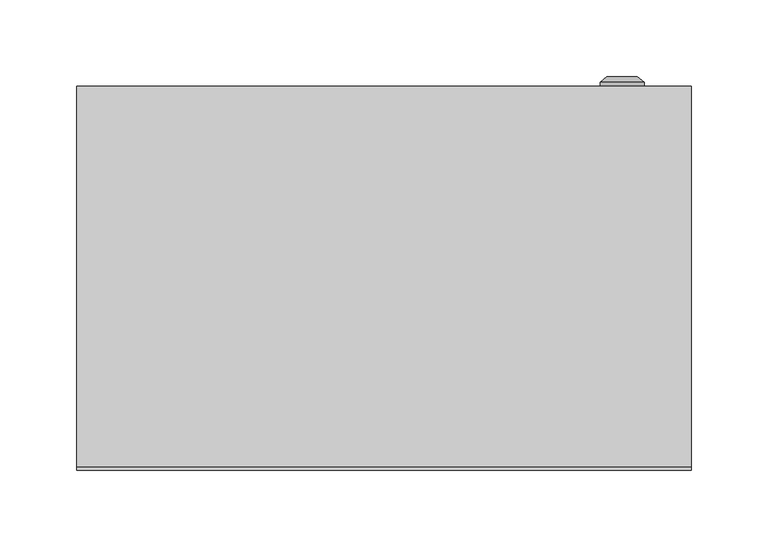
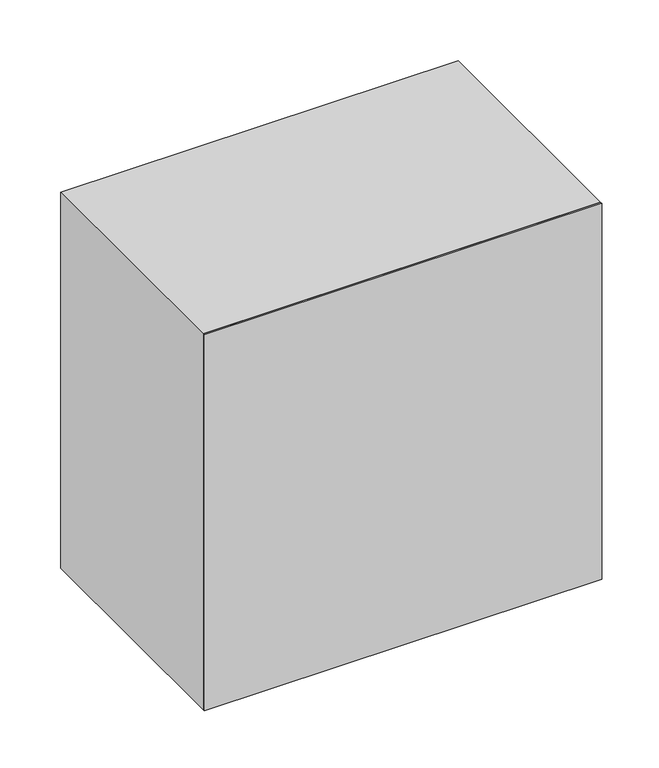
"""IFC4 building model written with IfcOpenShell, lengths in millimetres: proxy geometry, ЩМП : ЩМП-4.4.2-0_400х400х250."""

import ifcopenshell
import ifcopenshell.guid

model = None  # the IFC model being written
_history = None  # IfcOwnerHistory: only IFC2X3 demands one
_inside = {}  # id of a spatial element -> (the spatial element, [elements in it])
_under = {}  # id of a project, library or spatial element -> (it, [spatial elements below it])
_declared = {}  # id of a project -> (the project, [libraries it declares])
_typed = {}  # id of a type object -> (the type object, [elements of that type])
_made_of = {}  # id of a material, layer set ... -> (it, [elements and type objects made of it])


def new_model(schema):
    """Start an empty IFC model of exactly this schema.

    Asked for "IFC4X3", IfcOpenShell would pick the latest addendum, in which some entities
    have other attributes; the version numbers below select the first issue.
    IFC2X3 requires an IfcOwnerHistory on every rooted entity: one is made here for all.
    """
    global model, _history
    if schema == "IFC4X3":
        model = ifcopenshell.file(schema_version=(4, 3, 0, 0))
    else:
        model = ifcopenshell.file(schema=schema)
    _inside.clear()
    _under.clear()
    _declared.clear()
    _typed.clear()
    _made_of.clear()
    _history = None
    if model.schema == "IFC2X3":
        org = make("IfcOrganization", Name="unknown")
        user = make(
            "IfcPersonAndOrganization",
            ThePerson=make("IfcPerson", FamilyName="unknown"),
            TheOrganization=org,
        )
        app = make(
            "IfcApplication",
            ApplicationDeveloper=org,
            Version="unknown",
            ApplicationFullName="unknown",
            ApplicationIdentifier="unknown",
        )
        _history = make(
            "IfcOwnerHistory",
            OwningUser=user,
            OwningApplication=app,
            ChangeAction="ADDED",
            CreationDate=0,
        )
    return model


def make(cls, **values):
    """One entity of the class cls with the attributes given. An attribute that is None is left unset."""
    return model.create_entity(
        cls, **{name: value for name, value in values.items() if value is not None}
    )


def rooted(cls, **values):
    """An entity with a GlobalId (a new one), such as an element, a storey or a relation."""
    return make(cls, GlobalId=ifcopenshell.guid.new(), OwnerHistory=_history, **values)


def si_unit(unit_type, name, prefix=None):
    """IfcSIUnit, for example si_unit("LENGTHUNIT", "METRE", prefix="MILLI")."""
    return make("IfcSIUnit", UnitType=unit_type, Prefix=prefix, Name=name)


def assignment(units):
    """IfcUnitAssignment: the units of a project."""
    return None if units is None else make("IfcUnitAssignment", Units=units)


def point(xyz):
    """IfcCartesianPoint."""
    return None if xyz is None else make("IfcCartesianPoint", Coordinates=xyz)


def direction(xyz):
    """IfcDirection."""
    return None if xyz is None else make("IfcDirection", DirectionRatios=xyz)


def frame(location, z_axis=None, x_axis=None):
    """IfcAxis2Placement3D, a coordinate frame: its origin and axes. An axis left out is left unset."""
    return make(
        "IfcAxis2Placement3D",
        Location=point(location),
        Axis=direction(z_axis),
        RefDirection=direction(x_axis),
    )


def origin():
    """The frame at (0, 0, 0) with its axes left unset."""
    return frame((0.0, 0.0, 0.0))


def origin_with_axes():
    """The frame at (0, 0, 0) with the z axis (0, 0, 1) and the x axis (1, 0, 0) written out."""
    return frame((0.0, 0.0, 0.0), z_axis=(0.0, 0.0, 1.0), x_axis=(1.0, 0.0, 0.0))


def place(relative_to, where):
    """IfcLocalPlacement: puts the frame where relative to a parent placement (None: the world)."""
    return make(
        "IfcLocalPlacement", PlacementRelTo=relative_to, RelativePlacement=where
    )


def context(
    kind, dimensions, precision=None, world=None, true_north=None, identifier=None
):
    """IfcGeometricRepresentationContext, for example the 3D "Model" context."""
    return make(
        "IfcGeometricRepresentationContext",
        ContextIdentifier=identifier,
        ContextType=kind,
        CoordinateSpaceDimension=dimensions,
        Precision=precision,
        WorldCoordinateSystem=world,
        TrueNorth=true_north,
    )


def project(units=None, contexts=None):
    """IfcProject with its units and contexts."""
    return rooted(
        "IfcProject",
        Name="project",
        RepresentationContexts=contexts,
        UnitsInContext=assignment(units),
    )


def spatial(cls, under=None, at=None, **own):
    """A site, building, storey or space (cls), placed at a placement, below another one or the project."""
    s = rooted(cls, ObjectPlacement=at, **own)
    if under is not None:
        _under.setdefault(under.id(), (under, []))[1].append(s)
    return s


def polyline(points):
    """IfcPolyline through the points."""
    return make("IfcPolyline", Points=[point(p) for p in points])


def circle_curve(where, radius):
    """IfcCircle in the frame where."""
    return make("IfcCircle", Position=where, Radius=radius)


def outline(outer, holes=None, kind="AREA"):
    """IfcArbitraryClosedProfileDef: a profile drawn as a closed curve; with holes, ...WithVoids."""
    if holes is None:
        return make("IfcArbitraryClosedProfileDef", ProfileType=kind, OuterCurve=outer)
    return make(
        "IfcArbitraryProfileDefWithVoids",
        ProfileType=kind,
        OuterCurve=outer,
        InnerCurves=holes,
    )


def extrude(swept, where, along, depth):
    """IfcExtrudedAreaSolid: the profile swept, set in the frame where, extruded along a direction by depth."""
    return make(
        "IfcExtrudedAreaSolid",
        SweptArea=swept,
        Position=where,
        ExtrudedDirection=direction(along),
        Depth=depth,
    )


def shape(context_of_items, identifier, shape_type, items):
    """IfcShapeRepresentation: the items that make up one representation, for example the "Body"."""
    return make(
        "IfcShapeRepresentation",
        ContextOfItems=context_of_items,
        RepresentationIdentifier=identifier,
        RepresentationType=shape_type,
        Items=items,
    )


def source(mapping_origin, context_of_items, identifier, shape_type, items):
    """IfcRepresentationMap: a shape defined once, which mapped items show again and again."""
    return make(
        "IfcRepresentationMap",
        MappingOrigin=mapping_origin,
        MappedRepresentation=shape(context_of_items, identifier, shape_type, items),
    )


def transform(
    local_origin,
    x_axis=None,
    y_axis=None,
    z_axis=None,
    scale=None,
    scale2=None,
    scale3=None,
    uniform=True,
):
    """IfcCartesianTransformationOperator3D, or its non-uniform kind. x_axis, y_axis, z_axis: its Axis1, 2, 3."""
    if uniform:
        return make(
            "IfcCartesianTransformationOperator3D",
            Axis1=direction(x_axis),
            Axis2=direction(y_axis),
            LocalOrigin=point(local_origin),
            Scale=scale,
            Axis3=direction(z_axis),
        )
    return make(
        "IfcCartesianTransformationOperator3DnonUniform",
        Axis1=direction(x_axis),
        Axis2=direction(y_axis),
        LocalOrigin=point(local_origin),
        Scale=scale,
        Axis3=direction(z_axis),
        Scale2=scale2,
        Scale3=scale3,
    )


def mapped(mapping_source, mapping_target):
    """IfcMappedItem: shows the shape of a source again, moved by a transform."""
    return make(
        "IfcMappedItem", MappingSource=mapping_source, MappingTarget=mapping_target
    )


def made_of(thing, what):
    """Note that an element or type object is made of a material, layer set ...; save() writes the relation."""
    if what is not None:
        _made_of.setdefault(what.id(), (what, []))[1].append(thing)
    return thing


def element(
    cls,
    number,
    at=None,
    inside=None,
    cuts=None,
    type_object=None,
    material=None,
    context=None,
    identifier="Body",
    shape_type=None,
    held_by="IfcProductDefinitionShape",
    body=None,
    shapes=None,
    **own,
):
    """One element of the class cls, such as IfcWall. Its Tag is "e" and its number.

    at: its placement. inside: the storey or other place that contains it. cuts: it is an
    opening in that element (IfcRelVoidsElement). A single representation is given by context,
    identifier, shape_type and body (its items); several are given by shapes. held_by: the class
    of the entity that holds the representations. save() writes the other relations.
    """
    e = rooted(cls, Tag="e%d" % number, ObjectPlacement=at, **own)
    if body is not None:
        shapes = [shape(context, identifier, shape_type, body)]
    if shapes is not None:
        e.Representation = make(held_by, Representations=shapes)
    if inside is not None:
        _inside.setdefault(inside.id(), (inside, []))[1].append(e)
    if cuts is not None:
        rooted(
            "IfcRelVoidsElement", RelatingBuildingElement=cuts, RelatedOpeningElement=e
        )
    if type_object is not None:
        _typed.setdefault(type_object.id(), (type_object, []))[1].append(e)
    return made_of(e, material)


def aggregate(whole, parts):
    """IfcRelAggregates: a whole, such as a stair, and the parts it consists of."""
    return rooted("IfcRelAggregates", RelatingObject=whole, RelatedObjects=parts)


def save(model, path):
    """Write the relations noted so far, then the file.

    IfcRelAggregates (storeys below a building ...), IfcRelContainedInSpatialStructure (elements
    in a storey), IfcRelDefinesByType, IfcRelAssociatesMaterial and IfcRelDeclares: one each for
    every whole, place, type object, material and project.
    """
    for whole, parts in _under.values():
        aggregate(whole, parts)
    for where, things in _inside.values():
        rooted(
            "IfcRelContainedInSpatialStructure",
            RelatedElements=things,
            RelatingStructure=where,
        )
    for kind, things in _typed.values():
        rooted("IfcRelDefinesByType", RelatedObjects=things, RelatingType=kind)
    for what, things in _made_of.values():
        rooted("IfcRelAssociatesMaterial", RelatedObjects=things, RelatingMaterial=what)
    for by, libraries in _declared.values():
        rooted("IfcRelDeclares", RelatingContext=by, RelatedDefinitions=libraries)
    model.write(path)


def plane_surface(at):
    """IfcPlane: the flat surface through the origin of the frame at, square to its z axis."""
    return make("IfcPlane", Position=at)


def cylinder_surface(at, radius):
    """IfcCylindricalSurface: all points at the distance radius from the z axis of the frame at."""
    return make("IfcCylindricalSurface", Position=at, Radius=radius)


def revolved_surface(curve, axis_point, axis_direction):
    """IfcSurfaceOfRevolution: the curve turned about the line through axis_point along axis_direction."""
    return make(
        "IfcSurfaceOfRevolution",
        SweptCurve=make("IfcArbitraryOpenProfileDef", ProfileType="CURVE", Curve=curve),
        AxisPosition=make("IfcAxis1Placement", Location=point(axis_point), Axis=direction(axis_direction)),
    )


def advanced_brep(points, edges, surfaces, faces):
    """IfcAdvancedBrep: a solid bounded by faces that lie on surfaces and meet in shared edges.

    An edge is (start, end): straight between two places in points (the first is 0);
    or (start, end, curve); or (start, end, curve, False) where it runs against its curve.
    A face is (place in surfaces, loops), or (place, loops, False) where it looks against
    its surface's normal. A loop lists edges by number (the first is 1), with a minus sign
    where the edge is run from its end to its start. The first loop is the outer one.
    """
    corners = [point(p) for p in points]
    vertices = [make("IfcVertexPoint", VertexGeometry=c) for c in corners]
    made = []
    for start, end, *more in edges:
        made.append(
            make(
                "IfcEdgeCurve",
                EdgeStart=vertices[start],
                EdgeEnd=vertices[end],
                EdgeGeometry=more[0] if more else make("IfcPolyline", Points=[corners[start], corners[end]]),
                SameSense=more[1] if len(more) > 1 else True,
            )
        )
    hull = []
    for where, loops, *sense in faces:
        bounds = []
        for j, loop in enumerate(loops):
            ring = [make("IfcOrientedEdge", EdgeElement=made[abs(k) - 1], Orientation=k > 0) for k in loop]
            bounds.append(
                make(
                    "IfcFaceOuterBound" if j == 0 else "IfcFaceBound",
                    Bound=make("IfcEdgeLoop", EdgeList=ring),
                    Orientation=True,
                )
            )
        hull.append(make("IfcAdvancedFace", Bounds=bounds, FaceSurface=surfaces[where], SameSense=sense[0] if sense else True))
    return make("IfcAdvancedBrep", Outer=make("IfcClosedShell", CfsFaces=hull))


def electrical_equipment_6aa829ec(model_context):
    return source(origin(), model_context, "Body", "SolidModel", [
        advanced_brep(
        [(140.669873, 250.0, 200.0), (169.330127, 250.0, 200.0), (155.0, 250.0, 200.0), (140.669873, 252.366592, 200.0), (169.330127, 252.366592, 200.0), (145.0, 256.0, 200.0), (165.0, 256.0, 200.0), (153.1080471, 256.0, 200.0), (156.8919529, 256.0, 200.0), (153.1080471, 254.9822294, 200.0), (156.8919529, 254.9822294, 200.0), (155.0, 254.9822294, 200.0)],
        [
            (0, 1, circle_curve(frame((155.0, 250.0, 200.0), z_axis=(0.0, -1.0, 0.0), x_axis=(1.0, 0.0, 0.0)), 14.330127)),
            (1, 2),
            (2, 0),
            (1, 0, circle_curve(frame((155.0, 250.0, 200.0), z_axis=(0.0, -1.0, 0.0), x_axis=(1.0, 0.0, 0.0)), 14.330127)),
            (3, 4, circle_curve(frame((155.0, 252.366592, 200.0), z_axis=(0.0, -1.0, 0.0), x_axis=(1.0, 0.0, 0.0)), 14.330127)),
            (4, 1),
            (0, 3),
            (4, 3, circle_curve(frame((155.0, 252.366592, 200.0), z_axis=(0.0, -1.0, 0.0), x_axis=(1.0, 0.0, 0.0)), 14.330127)),
            (5, 6, circle_curve(frame((155.0, 256.0, 200.0), z_axis=(0.0, -1.0, 0.0), x_axis=(1.0, 0.0, 0.0)), 10.0)),
            (6, 4),
            (3, 5),
            (6, 5, circle_curve(frame((155.0, 256.0, 200.0), z_axis=(0.0, -1.0, 0.0), x_axis=(1.0, 0.0, 0.0)), 10.0)),
            (7, 8, circle_curve(frame((155.0, 256.0, 200.0), z_axis=(0.0, -1.0, 0.0), x_axis=(1.0, 0.0, 0.0)), 1.8919529)),
            (8, 6),
            (5, 7),
            (8, 7, circle_curve(frame((155.0, 256.0, 200.0), z_axis=(0.0, -1.0, 0.0), x_axis=(1.0, 0.0, 0.0)), 1.8919529)),
            (9, 10, circle_curve(frame((155.0, 254.9822294, 200.0), z_axis=(0.0, -1.0, 0.0), x_axis=(1.0, 0.0, 0.0)), 1.8919529)),
            (10, 8),
            (7, 9),
            (10, 9, circle_curve(frame((155.0, 254.9822294, 200.0), z_axis=(0.0, -1.0, 0.0), x_axis=(1.0, 0.0, 0.0)), 1.8919529)),
            (11, 10),
            (9, 11),
        ],
        [
            plane_surface(frame((155.0, 250.0, 200.0), z_axis=(0.0, -1.0, 0.0), x_axis=(1.0, 0.0, 0.0))),
            cylinder_surface(frame((155.0, 263.1348851, 200.0), z_axis=(0.0, 1.0, 0.0), x_axis=(1.0, 0.0, 0.0)), 14.330127),
            revolved_surface(polyline([(169.330127, 252.366592, 200.0), (165.0, 256.0, 200.0)]), (155.0, 263.1348851, 200.0), (0.0, 1.0, 0.0)),
            plane_surface(frame((155.0, 256.0, 200.0), z_axis=(0.0, 1.0, 0.0), x_axis=(1.0, 0.0, 0.0))),
            revolved_surface(polyline([(156.8919529, 256.0, 200.0), (156.8919529, 254.9822294, 200.0)]), (155.0, 263.1348851, 200.0), (0.0, 1.0, 0.0)),
            plane_surface(frame((155.0, 254.9822294, 200.0), z_axis=(0.0, 1.0, 0.0), x_axis=(1.0, 0.0, 0.0))),
        ],
        [
            (0, [[1, 2, 3]]),
            (0, [[4, -3, -2]]),
            (1, [[5, 6, -1, 7]]),
            (1, [[8, -7, -4, -6]]),
            (2, [[9, 10, -5, 11]]),
            (2, [[12, -11, -8, -10]]),
            (3, [[13, 14, -9, 15]]),
            (3, [[16, -15, -12, -14]]),
            (4, [[17, 18, -13, 19]]),
            (4, [[20, -19, -16, -18]]),
            (5, [[21, -17, 22]]),
            (5, [[-22, -20, -21]]),
        ],
    ),
        extrude(outline(polyline([(181.5, 225.0), (-181.5, 225.0), (-181.5, 250.0), (181.5, 250.0), (181.5, 225.0)])), frame((0.0, 0.0, 18.5), z_axis=(0.0, 0.0, 1.0), x_axis=(1.0, 0.0, 0.0)), (0.0, 0.0, 1.0), 363.0),
        extrude(outline(polyline([(400.0, -200.0033905), (0.0, -200.0033905), (0.0, 199.9966095), (400.0, 199.9966095), (400.0, -200.0033905)]), holes=[polyline([(365.0, -165.0033905), (365.0, 164.9966095), (35.0, 164.9966095), (35.0, -165.0033905), (365.0, -165.0033905)])]), frame((0.0, 2.0, 0.0), z_axis=(0.0, 1.0, 0.0), x_axis=(0.0, 0.0, 1.0)), (0.0, 0.0, 1.0), 248.0),
        extrude(outline(polyline([(200.0, 0.0), (-200.0, 0.0), (-200.0, 2.0), (200.0, 2.0), (200.0, 0.0)])), origin_with_axes(), (0.0, 0.0, 1.0), 400.0),
    ])


if __name__ == "__main__":
    model = new_model("IFC4")
    model_context = context("Model", 3, world=origin())
    ifc_project = project(units=[si_unit("LENGTHUNIT", "METRE", prefix="MILLI")], contexts=[model_context])
    site = spatial("IfcSite", under=ifc_project)
    building = spatial("IfcBuilding", under=site)
    placement = place(None, origin())
    electrical_equipment_shape = electrical_equipment_6aa829ec(model_context)
    element("IfcBuildingElementProxy", 1, Name="ЩМП : ЩМП-4.4.2-0_400х400х250", ObjectType="ЩМП : ЩМП-4.4.2-0_400х400х250", at=placement, inside=building, context=model_context, shape_type="MappedRepresentation", body=[
        mapped(electrical_equipment_shape, transform((0.0, 0.0, 0.0), x_axis=(1.0, 0.0, 0.0), y_axis=(0.0, 1.0, 0.0), z_axis=(0.0, 0.0, 1.0))),
    ])
    save(model, "model.ifc")
